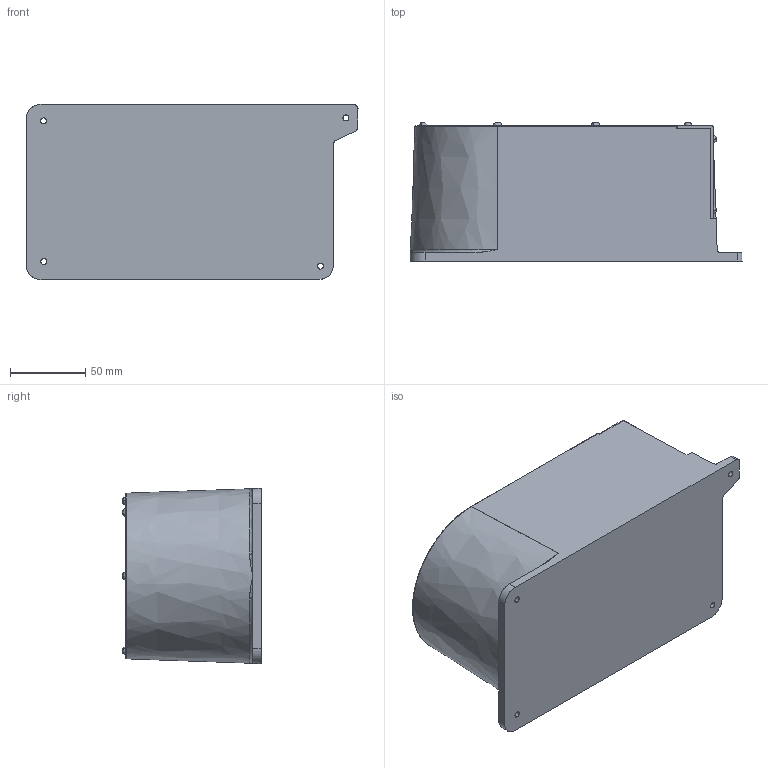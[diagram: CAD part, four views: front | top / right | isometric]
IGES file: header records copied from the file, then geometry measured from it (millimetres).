
Start section: SolidWorks IGES file using analytic representation for surfaces
Bounding box: 220.75 x 92 x 116.5 mm (x, y, z)
Surface area: 106755 mm2 (no closed solid volume)
Topology: 0 solids, 0 shells, 335 faces, 4791 edges, 4789 vertices
Faces by surface type: bspline 215, revolution 120
